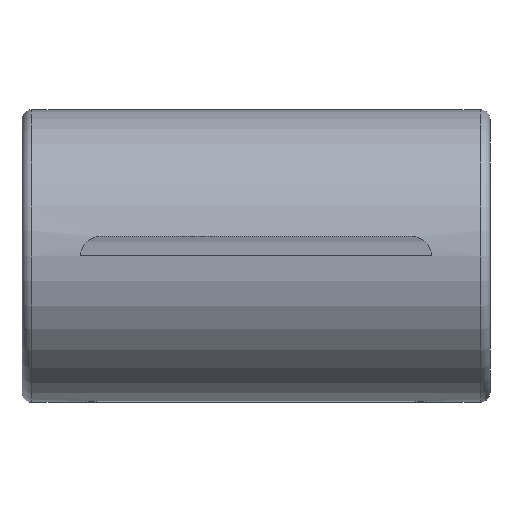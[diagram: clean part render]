
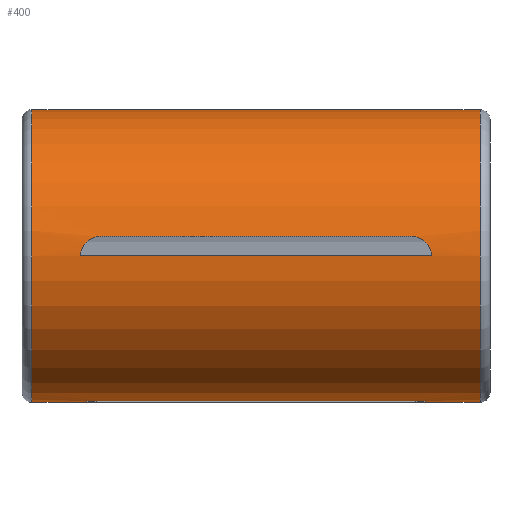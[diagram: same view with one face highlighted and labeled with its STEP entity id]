
A CAD part, front view. The second image highlights one B-rep face of the part: STEP entity #400.
In plain terms, the highlighted cylindrical face has radius 7.5 mm (diameter 15 mm), a full revolution.
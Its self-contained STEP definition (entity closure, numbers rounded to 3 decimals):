
#32=CIRCLE('',#436,7.5);
#33=CIRCLE('',#437,7.5);
#38=LINE('',#562,#70);
#39=LINE('',#570,#71);
#40=LINE('',#578,#72);
#41=LINE('',#586,#73);
#42=LINE('',#598,#74);
#43=LINE('',#606,#75);
#44=LINE('',#614,#76);
#45=LINE('',#622,#77);
#70=VECTOR('',#467,1000.);
#71=VECTOR('',#468,1000.);
#72=VECTOR('',#469,1000.);
#73=VECTOR('',#470,1000.);
#74=VECTOR('',#475,1000.);
#75=VECTOR('',#476,1000.);
#76=VECTOR('',#477,1000.);
#77=VECTOR('',#478,1000.);
#102=ORIENTED_EDGE('',*,*,#210,.T.);
#103=ORIENTED_EDGE('',*,*,#211,.T.);
#104=ORIENTED_EDGE('',*,*,#212,.T.);
#105=ORIENTED_EDGE('',*,*,#213,.T.);
#106=ORIENTED_EDGE('',*,*,#214,.T.);
#107=ORIENTED_EDGE('',*,*,#215,.T.);
#108=ORIENTED_EDGE('',*,*,#216,.T.);
#109=ORIENTED_EDGE('',*,*,#217,.T.);
#110=ORIENTED_EDGE('',*,*,#218,.T.);
#111=ORIENTED_EDGE('',*,*,#219,.T.);
#112=ORIENTED_EDGE('',*,*,#220,.T.);
#113=ORIENTED_EDGE('',*,*,#221,.T.);
#114=ORIENTED_EDGE('',*,*,#222,.T.);
#115=ORIENTED_EDGE('',*,*,#223,.T.);
#116=ORIENTED_EDGE('',*,*,#224,.T.);
#117=ORIENTED_EDGE('',*,*,#225,.T.);
#118=ORIENTED_EDGE('',*,*,#226,.T.);
#119=ORIENTED_EDGE('',*,*,#227,.T.);
#210=EDGE_CURVE('',#264,#265,#302,.T.);
#211=EDGE_CURVE('',#265,#266,#38,.F.);
#212=EDGE_CURVE('',#266,#267,#303,.T.);
#213=EDGE_CURVE('',#267,#264,#39,.T.);
#214=EDGE_CURVE('',#268,#269,#304,.T.);
#215=EDGE_CURVE('',#269,#270,#40,.F.);
#216=EDGE_CURVE('',#270,#271,#305,.T.);
#217=EDGE_CURVE('',#271,#268,#41,.T.);
#218=EDGE_CURVE('',#272,#272,#32,.F.);
#219=EDGE_CURVE('',#273,#273,#33,.T.);
#220=EDGE_CURVE('',#274,#275,#306,.T.);
#221=EDGE_CURVE('',#275,#276,#42,.F.);
#222=EDGE_CURVE('',#276,#277,#307,.T.);
#223=EDGE_CURVE('',#277,#274,#43,.T.);
#224=EDGE_CURVE('',#278,#279,#308,.T.);
#225=EDGE_CURVE('',#279,#280,#44,.F.);
#226=EDGE_CURVE('',#280,#281,#309,.T.);
#227=EDGE_CURVE('',#281,#278,#45,.T.);
#264=VERTEX_POINT('',#560);
#265=VERTEX_POINT('',#561);
#266=VERTEX_POINT('',#563);
#267=VERTEX_POINT('',#569);
#268=VERTEX_POINT('',#576);
#269=VERTEX_POINT('',#577);
#270=VERTEX_POINT('',#579);
#271=VERTEX_POINT('',#585);
#272=VERTEX_POINT('',#588);
#273=VERTEX_POINT('',#590);
#274=VERTEX_POINT('',#596);
#275=VERTEX_POINT('',#597);
#276=VERTEX_POINT('',#599);
#277=VERTEX_POINT('',#605);
#278=VERTEX_POINT('',#612);
#279=VERTEX_POINT('',#613);
#280=VERTEX_POINT('',#615);
#281=VERTEX_POINT('',#621);
#302=B_SPLINE_CURVE_WITH_KNOTS('',3,(#555,#556,#557,#558,#559),
 .UNSPECIFIED.,.F.,.F.,(4,1,4),(0.,0.001,
0.002),.UNSPECIFIED.);
#303=B_SPLINE_CURVE_WITH_KNOTS('',3,(#564,#565,#566,#567,#568),
 .UNSPECIFIED.,.F.,.F.,(4,1,4),(0.,0.001,0.002),
 .UNSPECIFIED.);
#304=B_SPLINE_CURVE_WITH_KNOTS('',3,(#571,#572,#573,#574,#575),
 .UNSPECIFIED.,.F.,.F.,(4,1,4),(0.,0.001,
0.002),.UNSPECIFIED.);
#305=B_SPLINE_CURVE_WITH_KNOTS('',3,(#580,#581,#582,#583,#584),
 .UNSPECIFIED.,.F.,.F.,(4,1,4),(0.,0.001,0.002),
 .UNSPECIFIED.);
#306=B_SPLINE_CURVE_WITH_KNOTS('',3,(#591,#592,#593,#594,#595),
 .UNSPECIFIED.,.F.,.F.,(4,1,4),(0.,0.001,
0.002),.UNSPECIFIED.);
#307=B_SPLINE_CURVE_WITH_KNOTS('',3,(#600,#601,#602,#603,#604),
 .UNSPECIFIED.,.F.,.F.,(4,1,4),(0.,0.001,0.002),
 .UNSPECIFIED.);
#308=B_SPLINE_CURVE_WITH_KNOTS('',3,(#607,#608,#609,#610,#611),
 .UNSPECIFIED.,.F.,.F.,(4,1,4),(0.,0.001,
0.002),.UNSPECIFIED.);
#309=B_SPLINE_CURVE_WITH_KNOTS('',3,(#616,#617,#618,#619,#620),
 .UNSPECIFIED.,.F.,.F.,(4,1,4),(0.,0.001,0.002),
 .UNSPECIFIED.);
#318=EDGE_LOOP('',(#102,#103,#104,#105));
#319=EDGE_LOOP('',(#106,#107,#108,#109));
#320=EDGE_LOOP('',(#110));
#321=EDGE_LOOP('',(#111));
#322=EDGE_LOOP('',(#112,#113,#114,#115));
#323=EDGE_LOOP('',(#116,#117,#118,#119));
#354=FACE_BOUND('',#318,.T.);
#355=FACE_BOUND('',#319,.T.);
#356=FACE_BOUND('',#320,.T.);
#357=FACE_BOUND('',#321,.T.);
#358=FACE_BOUND('',#322,.T.);
#359=FACE_BOUND('',#323,.T.);
#390=CYLINDRICAL_SURFACE('',#435,7.5);
#400=ADVANCED_FACE('',(#354,#355,#356,#357,#358,#359),#390,.T.);
#435=AXIS2_PLACEMENT_3D('',#554,#465,#466);
#436=AXIS2_PLACEMENT_3D('',#587,#471,#472);
#437=AXIS2_PLACEMENT_3D('',#589,#473,#474);
#465=DIRECTION('',(-1.,0.,0.));
#466=DIRECTION('',(0.,0.,1.));
#467=DIRECTION('',(-1.,0.,0.));
#468=DIRECTION('',(-1.,0.,0.));
#469=DIRECTION('',(-1.,0.,0.));
#470=DIRECTION('',(-1.,0.,0.));
#471=DIRECTION('',(1.,0.,0.));
#472=DIRECTION('',(0.,0.,-1.));
#473=DIRECTION('',(1.,0.,0.));
#474=DIRECTION('',(0.,0.,-1.));
#475=DIRECTION('',(-1.,0.,0.));
#476=DIRECTION('',(-1.,0.,0.));
#477=DIRECTION('',(-1.,0.,0.));
#478=DIRECTION('',(-1.,0.,0.));
#554=CARTESIAN_POINT('',(12.,0.,0.));
#555=CARTESIAN_POINT('',(-9.,0.,-7.5));
#556=CARTESIAN_POINT('',(-9.,-0.264,-7.5));
#557=CARTESIAN_POINT('',(-8.782,-0.782,-7.467));
#558=CARTESIAN_POINT('',(-8.264,-1.,-7.433));
#559=CARTESIAN_POINT('',(-8.,-1.,-7.433));
#560=CARTESIAN_POINT('',(-9.,0.,-7.5));
#561=CARTESIAN_POINT('',(-8.,-1.,-7.433));
#562=CARTESIAN_POINT('',(12.,-1.,-7.433));
#563=CARTESIAN_POINT('',(8.,-1.,-7.433));
#564=CARTESIAN_POINT('',(8.,-1.,-7.433));
#565=CARTESIAN_POINT('',(8.264,-1.,-7.433));
#566=CARTESIAN_POINT('',(8.782,-0.782,-7.467));
#567=CARTESIAN_POINT('',(9.,-0.264,-7.5));
#568=CARTESIAN_POINT('',(9.,0.,-7.5));
#569=CARTESIAN_POINT('',(9.,0.,-7.5));
#570=CARTESIAN_POINT('',(12.,0.,-7.5));
#571=CARTESIAN_POINT('',(-9.,0.,7.5));
#572=CARTESIAN_POINT('',(-9.,0.264,7.5));
#573=CARTESIAN_POINT('',(-8.782,0.782,7.467));
#574=CARTESIAN_POINT('',(-8.264,1.,7.433));
#575=CARTESIAN_POINT('',(-8.,1.,7.433));
#576=CARTESIAN_POINT('',(-9.,0.,7.5));
#577=CARTESIAN_POINT('',(-8.,1.,7.433));
#578=CARTESIAN_POINT('',(12.,1.,7.433));
#579=CARTESIAN_POINT('',(8.,1.,7.433));
#580=CARTESIAN_POINT('',(8.,1.,7.433));
#581=CARTESIAN_POINT('',(8.264,1.,7.433));
#582=CARTESIAN_POINT('',(8.782,0.782,7.467));
#583=CARTESIAN_POINT('',(9.,0.264,7.5));
#584=CARTESIAN_POINT('',(9.,0.,7.5));
#585=CARTESIAN_POINT('',(9.,0.,7.5));
#586=CARTESIAN_POINT('',(12.,0.,7.5));
#587=CARTESIAN_POINT('',(11.5,0.,0.));
#588=CARTESIAN_POINT('',(11.5,0.,-7.5));
#589=CARTESIAN_POINT('',(-11.5,0.,0.));
#590=CARTESIAN_POINT('',(-11.5,0.,-7.5));
#591=CARTESIAN_POINT('',(-9.,7.5,0.));
#592=CARTESIAN_POINT('',(-9.,7.5,-0.264));
#593=CARTESIAN_POINT('',(-8.782,7.467,-0.782));
#594=CARTESIAN_POINT('',(-8.264,7.433,-1.));
#595=CARTESIAN_POINT('',(-8.,7.433,-1.));
#596=CARTESIAN_POINT('',(-9.,7.5,0.));
#597=CARTESIAN_POINT('',(-8.,7.433,-1.));
#598=CARTESIAN_POINT('',(12.,7.433,-1.));
#599=CARTESIAN_POINT('',(8.,7.433,-1.));
#600=CARTESIAN_POINT('',(8.,7.433,-1.));
#601=CARTESIAN_POINT('',(8.264,7.433,-1.));
#602=CARTESIAN_POINT('',(8.782,7.467,-0.782));
#603=CARTESIAN_POINT('',(9.,7.5,-0.264));
#604=CARTESIAN_POINT('',(9.,7.5,0.));
#605=CARTESIAN_POINT('',(9.,7.5,0.));
#606=CARTESIAN_POINT('',(12.,7.5,0.));
#607=CARTESIAN_POINT('',(-9.,-7.5,0.));
#608=CARTESIAN_POINT('',(-9.,-7.5,0.264));
#609=CARTESIAN_POINT('',(-8.782,-7.467,0.782));
#610=CARTESIAN_POINT('',(-8.264,-7.433,1.));
#611=CARTESIAN_POINT('',(-8.,-7.433,1.));
#612=CARTESIAN_POINT('',(-9.,-7.5,0.));
#613=CARTESIAN_POINT('',(-8.,-7.433,1.));
#614=CARTESIAN_POINT('',(12.,-7.433,1.));
#615=CARTESIAN_POINT('',(8.,-7.433,1.));
#616=CARTESIAN_POINT('',(8.,-7.433,1.));
#617=CARTESIAN_POINT('',(8.264,-7.433,1.));
#618=CARTESIAN_POINT('',(8.782,-7.467,0.782));
#619=CARTESIAN_POINT('',(9.,-7.5,0.264));
#620=CARTESIAN_POINT('',(9.,-7.5,0.));
#621=CARTESIAN_POINT('',(9.,-7.5,0.));
#622=CARTESIAN_POINT('',(12.,-7.5,0.));
